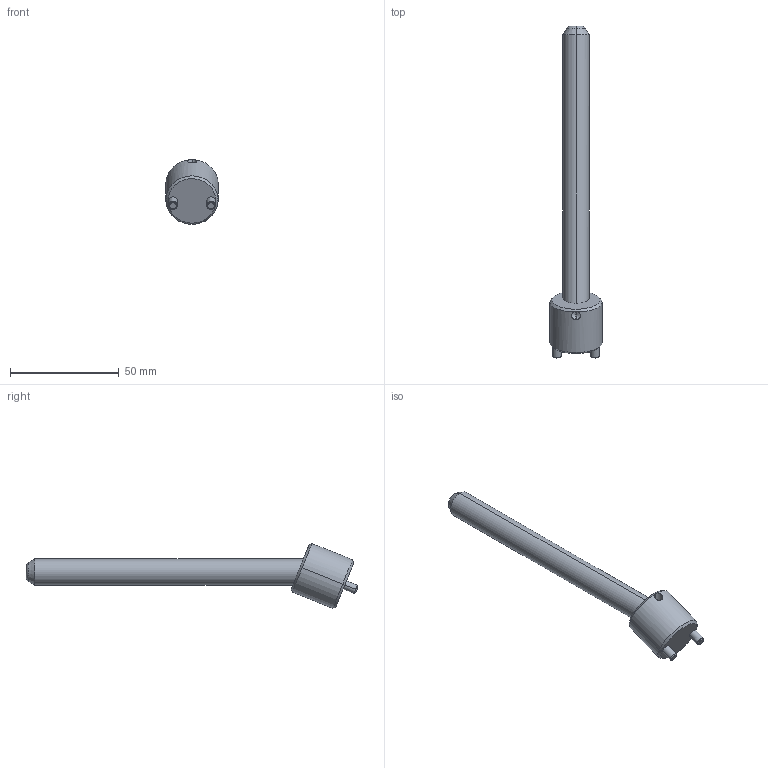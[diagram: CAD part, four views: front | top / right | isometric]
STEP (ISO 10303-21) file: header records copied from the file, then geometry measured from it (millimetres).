
FILE_DESCRIPTION(('CATIA V5 STEP Exchange'),'2;1');
FILE_NAME('C:\Users\Raffaele\Desktop\3D BOLEX\3D FILES CF BOLEX\19-INCLINED ASSEMBLY REF_CI\CI2212125.stp','2019-06-21T10:21:59+00:00',('none'),('none'),'CATIA Version 5 Release 20 GA (IN-10)','CATIA V5 STEP AP203','none');
FILE_SCHEMA(('CONFIG_CONTROL_DESIGN'));
Length unit declared in the file: millimetre
Products named in the file (1): CI2212125
Assembly tree (2 placements, depth 2):
  CI2212125
    #58
    #578
Bounding box: 24 x 152.46 x 29.7 mm (x, y, z)
Volume: 23857 mm3; surface area: 8895.5 mm2
Topology: 2 solids, 2 shells, 39 faces, 85 edges, 49 vertices
Faces by surface type: cone 14, cylinder 14, plane 7, torus 4
Entity records: 1497 total; most frequent: CARTESIAN_POINT 626, ORIENTED_EDGE 166, DIRECTION 145, EDGE_CURVE 83, AXIS2_PLACEMENT_3D 72, VERTEX_POINT 49, EDGE_LOOP 42, ADVANCED_FACE 39
